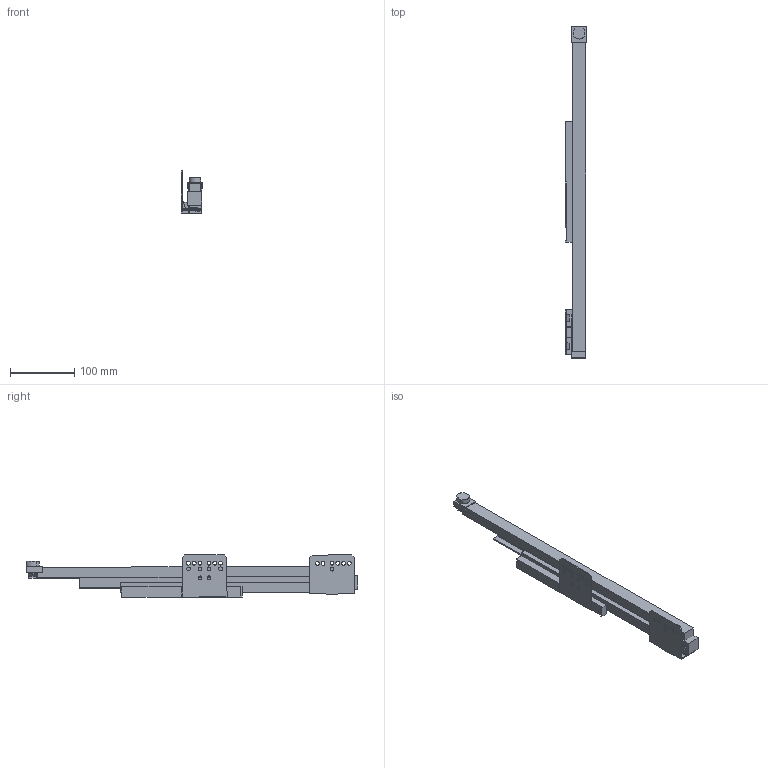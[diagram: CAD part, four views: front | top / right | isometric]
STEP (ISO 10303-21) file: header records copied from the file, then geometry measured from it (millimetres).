
FILE_DESCRIPTION (( 'STEP AP214' ), '1' );
FILE_NAME ('_IMOS Dynamic-XP VA 40kg NL500 LI Tipmatic.step', '2010-07-08T13:26:11', ( 'grass' ), ( '' ), 'SwSTEP 2.0', 'SolidWorks 2010', '' );
FILE_SCHEMA (( 'AUTOMOTIVE_DESIGN' ));
Length unit declared in the file: millimetre
Products named in the file (1): _IMOS Dynamic-XP VA 40kg NL500 LI Tipmatic
Bounding box: 33.14 x 518.02 x 66.67 mm (x, y, z)
Volume: 420937.6 mm3; surface area: 151301.8 mm2
Topology: 8 solids, 8 shells, 184 faces, 496 edges, 330 vertices
Faces by surface type: plane 137, cylinder 47
Entity records: 5917 total; most frequent: CARTESIAN_POINT 1011, ORIENTED_EDGE 992, DIRECTION 962, EDGE_CURVE 496, VECTOR 400, LINE 400, VERTEX_POINT 330, AXIS2_PLACEMENT_3D 281
